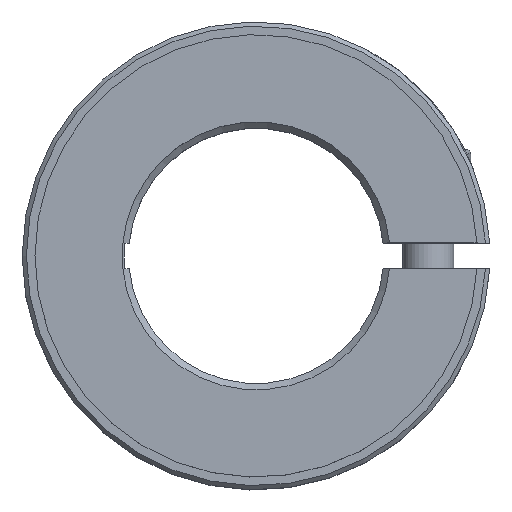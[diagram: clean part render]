
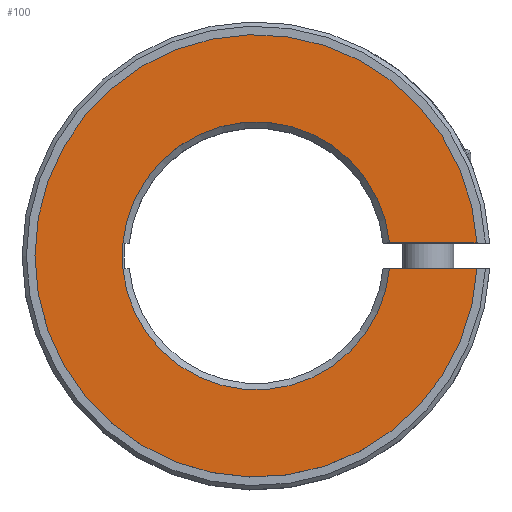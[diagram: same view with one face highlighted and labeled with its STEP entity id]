
A CAD part, top view. The second image highlights one B-rep face of the part: STEP entity #100.
In plain terms, the highlighted planar face has unit normal (0, 0, 1).
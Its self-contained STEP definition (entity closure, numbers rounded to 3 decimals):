
#100 = ADVANCED_FACE( '', ( #171 ), #172, .T. );
#171 = FACE_OUTER_BOUND( '', #254, .T. );
#172 = PLANE( '', #255 );
#254 = EDGE_LOOP( '', ( #462, #463, #464, #465 ) );
#255 = AXIS2_PLACEMENT_3D( '', #466, #467, #468 );
#462 = ORIENTED_EDGE( '', *, *, #620, .F. );
#463 = ORIENTED_EDGE( '', *, *, #587, .T. );
#464 = ORIENTED_EDGE( '', *, *, #622, .T. );
#465 = ORIENTED_EDGE( '', *, *, #624, .T. );
#466 = CARTESIAN_POINT( '', ( 0., 26., 10.5 ) );
#467 = DIRECTION( '', ( 0., 0., 1. ) );
#468 = DIRECTION( '', ( 0., -1., 0. ) );
#587 = EDGE_CURVE( '', #701, #699, #702, .T. );
#620 = EDGE_CURVE( '', #701, #757, #758, .T. );
#622 = EDGE_CURVE( '', #699, #760, #761, .T. );
#624 = EDGE_CURVE( '', #760, #757, #763, .T. );
#699 = VERTEX_POINT( '', #966 );
#701 = VERTEX_POINT( '', #969 );
#702 = LINE( '', #970, #971 );
#757 = VERTEX_POINT( '', #1051 );
#758 = CIRCLE( '', #1052, 26. );
#760 = VERTEX_POINT( '', #1055 );
#761 = CIRCLE( '', #1056, 15.75 );
#763 = LINE( '', #1059, #1060 );
#966 = CARTESIAN_POINT( '', ( 15.676, -1.53, 10.5 ) );
#969 = CARTESIAN_POINT( '', ( 25.955, -1.53, 10.5 ) );
#970 = CARTESIAN_POINT( '', ( 0., -1.53, 10.5 ) );
#971 = VECTOR( '', #1136, 1000. );
#1051 = CARTESIAN_POINT( '', ( 25.955, 1.53, 10.5 ) );
#1052 = AXIS2_PLACEMENT_3D( '', #1186, #1187, #1188 );
#1055 = CARTESIAN_POINT( '', ( 15.676, 1.53, 10.5 ) );
#1056 = AXIS2_PLACEMENT_3D( '', #1190, #1191, #1192 );
#1059 = CARTESIAN_POINT( '', ( 0., 1.53, 10.5 ) );
#1060 = VECTOR( '', #1194, 1000. );
#1136 = DIRECTION( '', ( -1., 0., 0. ) );
#1186 = CARTESIAN_POINT( '', ( 0., 0., 10.5 ) );
#1187 = DIRECTION( '', ( 0., 0., -1. ) );
#1188 = DIRECTION( '', ( 0., 1., 0. ) );
#1190 = CARTESIAN_POINT( '', ( 0., 0., 10.5 ) );
#1191 = DIRECTION( '', ( 0., 0., -1. ) );
#1192 = DIRECTION( '', ( 0., 1., 0. ) );
#1194 = DIRECTION( '', ( 1., 0., 0. ) );
